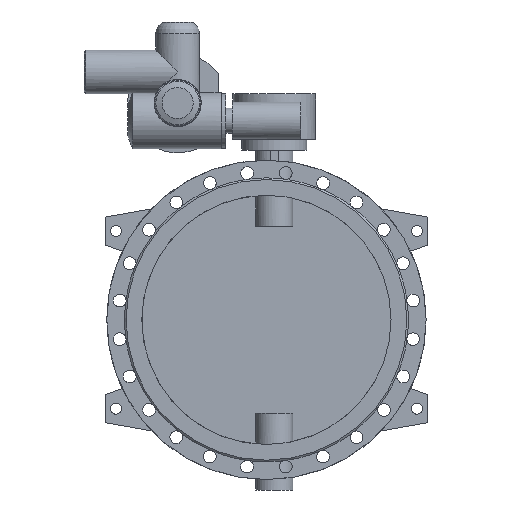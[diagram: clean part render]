
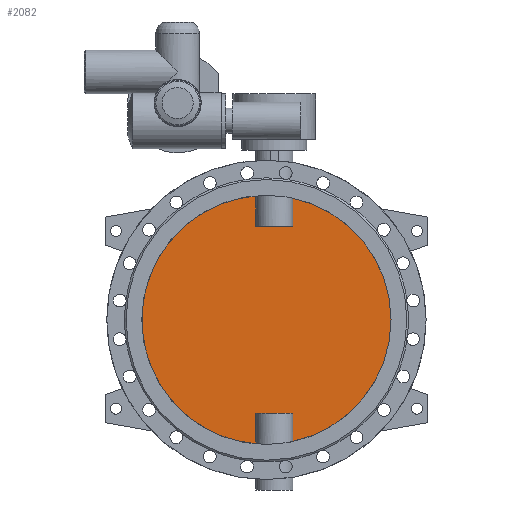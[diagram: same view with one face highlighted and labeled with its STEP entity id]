
A CAD part, front view. The second image highlights one B-rep face of the part: STEP entity #2082.
In plain terms, the highlighted planar face has unit normal (0, -1, 0).
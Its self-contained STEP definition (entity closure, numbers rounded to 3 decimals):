
#2082=ADVANCED_FACE('',(#4107),#4109,.F.);
#4107=FACE_BOUND('',#4108,.T.);
#4108=EDGE_LOOP('',(#5359,#5360,#5361,#5362,#5363,#5364,#5365,#5366));
#4109=PLANE('',#4110);
#4110=AXIS2_PLACEMENT_3D('',#4111,#4112,#4113);
#4111=CARTESIAN_POINT('',(0.,-5.,0.));
#4112=DIRECTION('',(0.,1.,0.));
#4113=DIRECTION('',(1.,0.,0.));
#5359=ORIENTED_EDGE('',*,*,#5986,.T.);
#5360=ORIENTED_EDGE('',*,*,#5991,.T.);
#5361=ORIENTED_EDGE('',*,*,#5992,.T.);
#5362=ORIENTED_EDGE('',*,*,#5993,.T.);
#5363=ORIENTED_EDGE('',*,*,#5988,.T.);
#5364=ORIENTED_EDGE('',*,*,#5994,.T.);
#5365=ORIENTED_EDGE('',*,*,#5995,.T.);
#5366=ORIENTED_EDGE('',*,*,#5996,.T.);
#5986=EDGE_CURVE('',#7073,#7074,#7075,.F.);
#5988=EDGE_CURVE('',#7078,#7076,#7079,.F.);
#5991=EDGE_CURVE('',#7074,#7083,#7084,.T.);
#5992=EDGE_CURVE('',#7083,#7085,#7086,.F.);
#5993=EDGE_CURVE('',#7085,#7078,#7087,.F.);
#5994=EDGE_CURVE('',#7076,#7088,#7089,.F.);
#5995=EDGE_CURVE('',#7088,#7090,#7091,.F.);
#5996=EDGE_CURVE('',#7090,#7073,#7092,.T.);
#7073=VERTEX_POINT('',#13761);
#7074=VERTEX_POINT('',#13762);
#7075=CIRCLE('',#13763,400.);
#7076=VERTEX_POINT('',#13767);
#7078=VERTEX_POINT('',#13874);
#7079=CIRCLE('',#13875,400.);
#7083=VERTEX_POINT('',#13991);
#7084=LINE('',#13992,#13993);
#7085=VERTEX_POINT('',#13995);
#7086=LINE('',#13996,#13997);
#7087=LINE('',#13999,#14000);
#7088=VERTEX_POINT('',#14002);
#7089=LINE('',#14003,#14004);
#7090=VERTEX_POINT('',#14006);
#7091=LINE('',#14007,#14008);
#7092=LINE('',#14010,#14011);
#13761=CARTESIAN_POINT('',(84.791,-5.,-390.91));
#13762=CARTESIAN_POINT('',(84.791,-5.,390.91));
#13763=AXIS2_PLACEMENT_3D('',#13764,#13765,#13766);
#13764=CARTESIAN_POINT('',(0.,-5.,0.));
#13765=DIRECTION('',(0.,1.,0.));
#13766=DIRECTION('',(0.212,0.,0.977));
#13767=CARTESIAN_POINT('',(-34.791,-5.,-398.484));
#13874=CARTESIAN_POINT('',(-34.791,-5.,398.484));
#13875=AXIS2_PLACEMENT_3D('',#13876,#13877,#13878);
#13876=CARTESIAN_POINT('',(0.,-5.,0.));
#13877=DIRECTION('',(0.,1.,0.));
#13878=DIRECTION('',(-0.087,0.,-0.996));
#13991=CARTESIAN_POINT('',(84.791,-5.,300.));
#13992=CARTESIAN_POINT('',(84.791,-5.,390.91));
#13993=VECTOR('',#13994,1.);
#13994=DIRECTION('',(0.,0.,-1.));
#13995=CARTESIAN_POINT('',(-34.791,-5.,300.));
#13996=CARTESIAN_POINT('',(-34.791,-5.,300.));
#13997=VECTOR('',#13998,1.);
#13998=DIRECTION('',(1.,0.,0.));
#13999=CARTESIAN_POINT('',(-34.791,-5.,398.484));
#14000=VECTOR('',#14001,1.);
#14001=DIRECTION('',(0.,0.,-1.));
#14002=CARTESIAN_POINT('',(-34.791,-5.,-300.));
#14003=CARTESIAN_POINT('',(-34.791,-5.,-300.));
#14004=VECTOR('',#14005,1.);
#14005=DIRECTION('',(0.,0.,-1.));
#14006=CARTESIAN_POINT('',(84.791,-5.,-300.));
#14007=CARTESIAN_POINT('',(84.791,-5.,-300.));
#14008=VECTOR('',#14009,1.);
#14009=DIRECTION('',(-1.,0.,0.));
#14010=CARTESIAN_POINT('',(84.791,-5.,-300.));
#14011=VECTOR('',#14012,1.);
#14012=DIRECTION('',(0.,0.,-1.));
